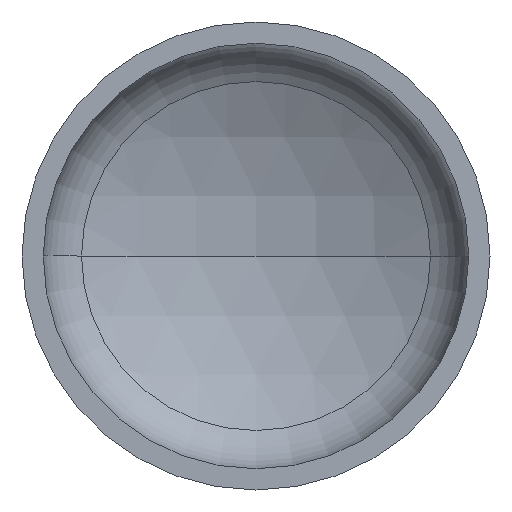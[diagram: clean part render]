
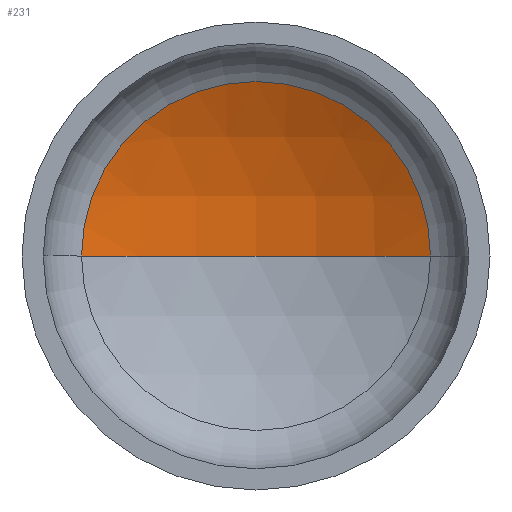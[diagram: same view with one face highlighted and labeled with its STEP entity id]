
A CAD part, front view. The second image highlights one B-rep face of the part: STEP entity #231.
In plain terms, the highlighted spherical face has radius 1200 mm.
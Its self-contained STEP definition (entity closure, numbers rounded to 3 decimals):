
#38 = AXIS2_PLACEMENT_3D ( 'NONE', #225, #316, #146 ) ;
#44 = AXIS2_PLACEMENT_3D ( 'NONE', #61, #143, #141 ) ;
#50 = AXIS2_PLACEMENT_3D ( 'NONE', #149, #332, #337 ) ;
#52 = AXIS2_PLACEMENT_3D ( 'NONE', #284, #281, #283 ) ;
#59 = EDGE_LOOP ( 'NONE', ( #127, #114, #77 ) ) ;
#61 = CARTESIAN_POINT ( 'NONE',  ( 0., -738.252, 0. ) ) ;
#77 = ORIENTED_EDGE ( 'NONE', *, *, #99, .T. ) ;
#99 = EDGE_CURVE ( 'NONE', #144, #101, #279, .T. ) ;
#101 = VERTEX_POINT ( 'NONE', #286 ) ;
#102 = EDGE_CURVE ( 'NONE', #122, #144, #344, .T. ) ;
#103 = EDGE_CURVE ( 'NONE', #122, #101, #219, .T. ) ;
#114 = ORIENTED_EDGE ( 'NONE', *, *, #102, .T. ) ;
#122 = VERTEX_POINT ( 'NONE', #264 ) ;
#127 = ORIENTED_EDGE ( 'NONE', *, *, #103, .F. ) ;
#141 = DIRECTION ( 'NONE',  ( 1., 0., 0. ) ) ;
#143 = DIRECTION ( 'NONE',  ( 0., 0., 1. ) ) ;
#144 = VERTEX_POINT ( 'NONE', #292 ) ;
#146 = DIRECTION ( 'NONE',  ( -1., 0., 0. ) ) ;
#149 = CARTESIAN_POINT ( 'NONE',  ( 0., -738.252, 0. ) ) ;
#202 = FACE_OUTER_BOUND ( 'NONE', #59, .T. ) ;
#219 = CIRCLE ( 'NONE', #44, 1200. ) ;
#225 = CARTESIAN_POINT ( 'NONE',  ( 0., -738.252, 0. ) ) ;
#231 = ADVANCED_FACE ( 'NONE', ( #202 ), #266, .F. ) ;
#264 = CARTESIAN_POINT ( 'NONE',  ( 0., 461.748, 0. ) ) ;
#266 = SPHERICAL_SURFACE ( 'NONE', #38, 1200. ) ;
#279 = CIRCLE ( 'NONE', #52, 559.175 ) ;
#281 = DIRECTION ( 'NONE',  ( 0., -1., 0. ) ) ;
#283 = DIRECTION ( 'NONE',  ( 1., 0., 0. ) ) ;
#284 = CARTESIAN_POINT ( 'NONE',  ( 0., 323.503, 0. ) ) ;
#286 = CARTESIAN_POINT ( 'NONE',  ( -559.175, 323.503, 0. ) ) ;
#292 = CARTESIAN_POINT ( 'NONE',  ( 559.175, 323.503, 0. ) ) ;
#316 = DIRECTION ( 'NONE',  ( 0., 0., -1. ) ) ;
#332 = DIRECTION ( 'NONE',  ( 0., 0., -1. ) ) ;
#337 = DIRECTION ( 'NONE',  ( -1., 0., 0. ) ) ;
#344 = CIRCLE ( 'NONE', #50, 1200. ) ;
